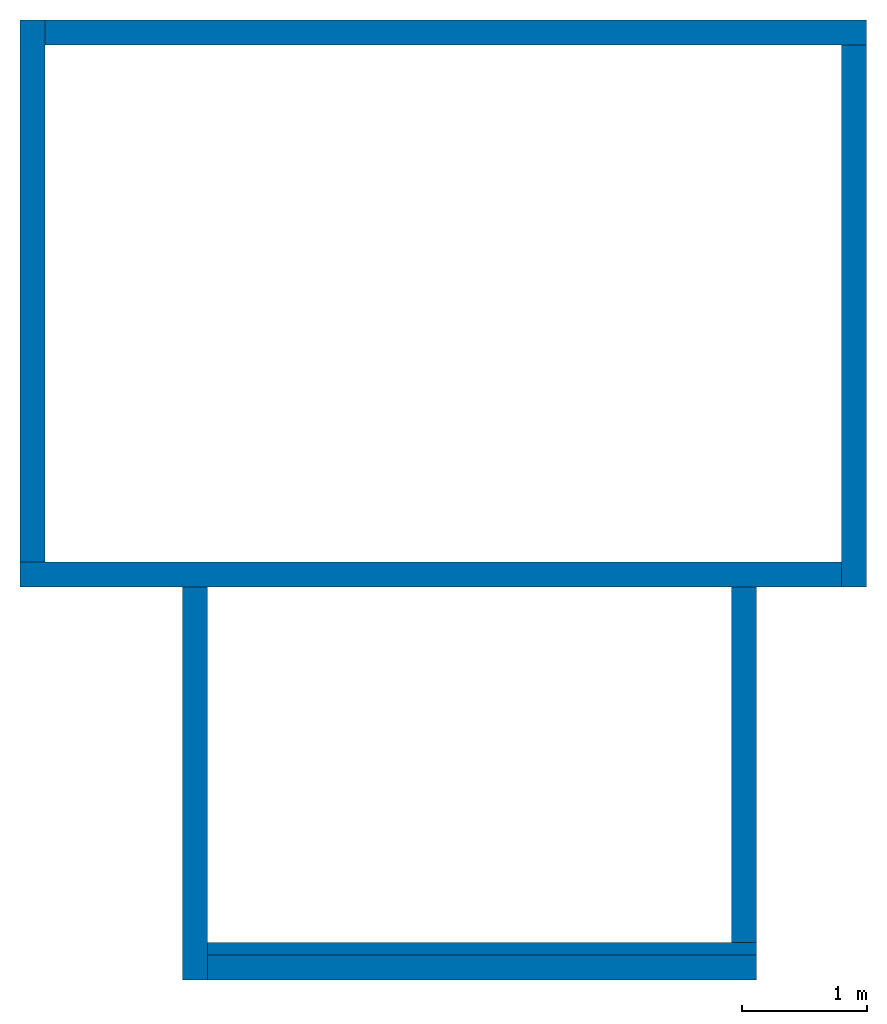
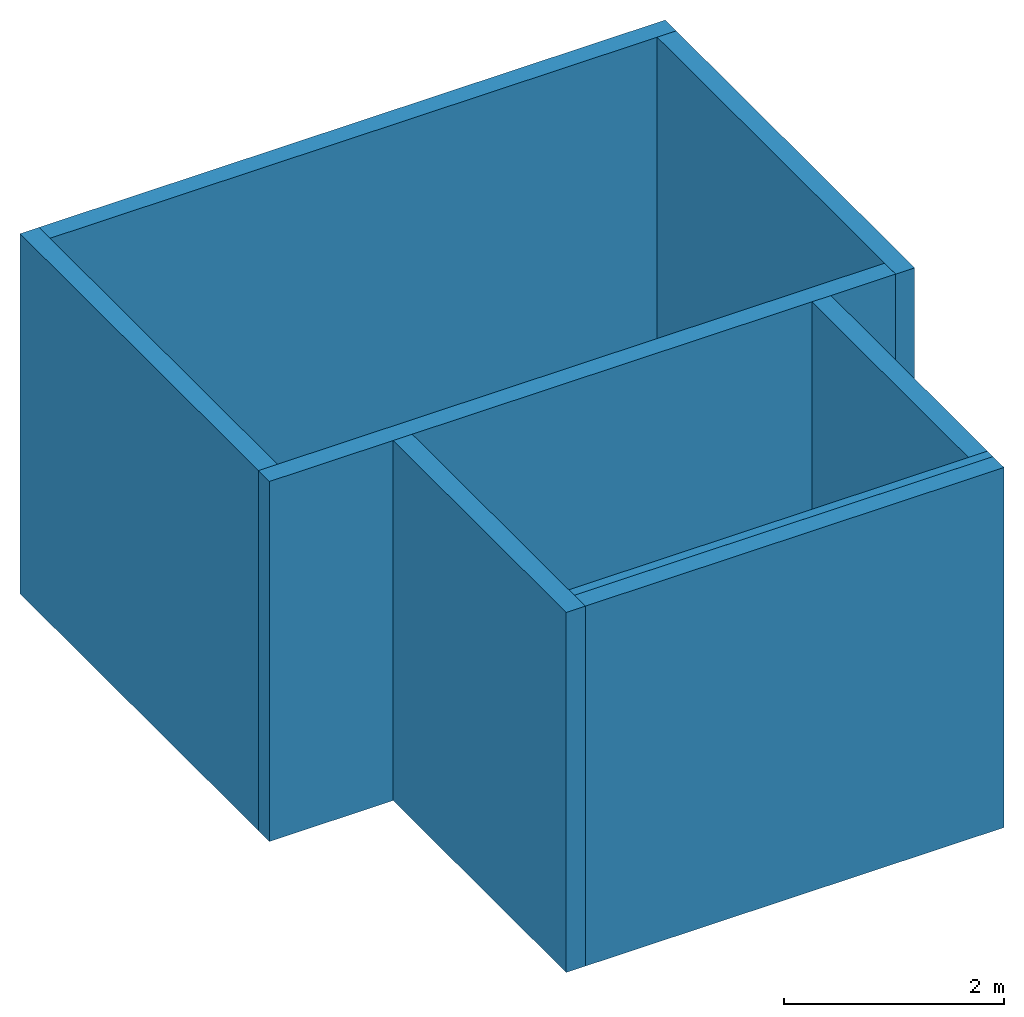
# One storey: 8 walls.
"""IFC2X3 building model written with IfcOpenShell, lengths in millimetres."""

from ifc_helpers import new_model, entity, si_unit, converted_unit, derived_unit, direction, frame, frame_2d, origin, origin_2d_with_axis, place, context, subcontext, project, spatial, rectangle, extrude, material, layer, layer_set, layer_usage, type_object, element, save


model = new_model("IFC2X3")

# Units and contexts
model_context = context("Model", 3, precision=0.01, world=origin(), true_north=direction((6.12303176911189e-17, 1.0)))
body_context = subcontext(model_context, "Body", "Model", "MODEL_VIEW")
ifc_project = project(units=[si_unit("LENGTHUNIT", "METRE", prefix="MILLI"), si_unit("AREAUNIT", "SQUARE_METRE"), si_unit("VOLUMEUNIT", "CUBIC_METRE"), converted_unit("PLANEANGLEUNIT", "DEGREE", entity("IfcRatioMeasure", 0.0174532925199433), si_unit("PLANEANGLEUNIT", "RADIAN"), dimensions=[0, 0, 0, 0, 0, 0, 0]), si_unit("MASSUNIT", "GRAM", prefix="KILO"), si_unit("TIMEUNIT", "SECOND"), si_unit("FREQUENCYUNIT", "HERTZ"), si_unit("THERMODYNAMICTEMPERATUREUNIT", "KELVIN"), derived_unit("THERMALTRANSMITTANCEUNIT", [(si_unit("MASSUNIT", "GRAM", prefix="KILO"), 1), (si_unit("THERMODYNAMICTEMPERATUREUNIT", "KELVIN"), -1), (si_unit("TIMEUNIT", "SECOND"), -3)]), derived_unit("VOLUMETRICFLOWRATEUNIT", [(si_unit("LENGTHUNIT", "METRE"), 3), (si_unit("TIMEUNIT", "SECOND"), -1)]), si_unit("ELECTRICCURRENTUNIT", "AMPERE"), si_unit("ELECTRICVOLTAGEUNIT", "VOLT"), si_unit("POWERUNIT", "WATT")], contexts=[model_context])

# Site, building, storey
site_placement = place(None, origin())
site = spatial("IfcSite", under=ifc_project, at=site_placement, Name="Default", CompositionType="ELEMENT")
building_placement = place(site_placement, origin())
building = spatial("IfcBuilding", under=site, at=building_placement, CompositionType="ELEMENT")
storey_placement = place(building_placement, origin())
storey = spatial("IfcBuildingStorey", under=building, at=storey_placement, Name="Level 1", CompositionType="ELEMENT", Elevation=0.0)

# Walls
ifc_material = material(Name="Default Wall")
ifc_layer = layer(ifc_material, 200.0)
ifc_layer_set = layer_set([ifc_layer], Name="Basic Wall:Wall 1")
ifc_layer_usage_1 = layer_usage(ifc_layer_set, "AXIS2", "NEGATIVE", 100.0)
wall_type = type_object("IfcWallType", Name="Basic Wall:Wall 1", PredefinedType="STANDARD", material=ifc_layer_set)
wall_1_placement = place(storey_placement, frame((693.124246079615, 559.408926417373, 0.0)))
element("IfcWallStandardCase", 1, at=wall_1_placement, inside=storey, type_object=wall_type, material=ifc_layer_usage_1, Name="Basic Wall:Wall 1:2277", ObjectType="Basic Wall:Wall 1:1492", context=body_context, shape_type="SweptSolid", body=[
    extrude(rectangle(XDim=6580.0, YDim=200.0, at=frame_2d((3290.0, 0.0), x_axis=(-1.0, 0.0))), origin(), (0.0, 0.0, 1.0), 4000.0),
])
ifc_layer_usage_2 = layer_usage(ifc_layer_set, "AXIS2", "NEGATIVE", 100.0)
wall_2_placement = place(storey_placement, frame((793.124246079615, 4999.40892641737, 0.0), z_axis=(0.0, 0.0, 1.0), x_axis=(0.0, -1.0, 0.0)))
element("IfcWallStandardCase", 2, at=wall_2_placement, inside=storey, type_object=wall_type, material=ifc_layer_usage_2, Name="Basic Wall:Wall 1:2278", ObjectType="Basic Wall:Wall 1:1492", context=body_context, shape_type="SweptSolid", body=[
    extrude(rectangle(XDim=4340.0, YDim=200.0, at=frame_2d((2170.0, 0.0), x_axis=(-1.0, 0.0))), origin(), (0.0, 0.0, 1.0), 4000.0),
])
ifc_layer_usage_3 = layer_usage(ifc_layer_set, "AXIS2", "NEGATIVE", 100.0)
wall_3_placement = place(storey_placement, frame((7473.12424607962, 4899.40892641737, 0.0), z_axis=(0.0, 0.0, 1.0), x_axis=(-1.0, 0.0, 0.0)))
element("IfcWallStandardCase", 3, at=wall_3_placement, inside=storey, type_object=wall_type, material=ifc_layer_usage_3, Name="Basic Wall:Wall 1:2279", ObjectType="Basic Wall:Wall 1:1492", context=body_context, shape_type="SweptSolid", body=[
    extrude(rectangle(XDim=6580.0, YDim=200.0, at=frame_2d((3290.0, 0.0), x_axis=(-1.0, 0.0))), origin(), (0.0, 0.0, 1.0), 4000.0),
])
ifc_layer_usage_4 = layer_usage(ifc_layer_set, "AXIS2", "NEGATIVE", 100.0)
wall_4_placement = place(storey_placement, frame((7373.12424607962, 459.408926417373, 0.0), z_axis=(0.0, 0.0, 1.0), x_axis=(0.0, 1.0, 0.0)))
element("IfcWallStandardCase", 4, at=wall_4_placement, inside=storey, type_object=wall_type, material=ifc_layer_usage_4, Name="Basic Wall:Wall 1:2280", ObjectType="Basic Wall:Wall 1:1492", context=body_context, shape_type="SweptSolid", body=[
    extrude(rectangle(XDim=4340.0, YDim=200.0, at=frame_2d((2170.0, 0.0), x_axis=(-1.0, 0.0))), origin(), (0.0, 0.0, 1.0), 4000.0),
])
ifc_layer_usage_5 = layer_usage(ifc_layer_set, "AXIS2", "NEGATIVE", 100.0)
wall_5_placement = place(storey_placement, frame((2093.12424607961, 459.408926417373, 0.0), z_axis=(0.0, 0.0, 1.0), x_axis=(0.0, -1.0, 0.0)))
element("IfcWallStandardCase", 5, at=wall_5_placement, inside=storey, type_object=wall_type, material=ifc_layer_usage_5, Name="Basic Wall:Wall 1:2354", ObjectType="Basic Wall:Wall 1:1492", context=body_context, shape_type="SweptSolid", body=[
    extrude(rectangle(XDim=3150.0, YDim=200.0, at=frame_2d((1575.0, 5.6843418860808e-14), x_axis=(-1.0, 0.0))), origin(), (0.0, 0.0, 1.0), 4000.0),
])
ifc_layer_usage_6 = layer_usage(ifc_layer_set, "AXIS2", "NEGATIVE", 100.0)
wall_6_placement = place(storey_placement, frame((6493.12424607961, -2390.59107358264, 0.0), z_axis=(0.0, 0.0, 1.0), x_axis=(0.0, 1.0, 0.0)))
element("IfcWallStandardCase", 6, at=wall_6_placement, inside=storey, type_object=wall_type, material=ifc_layer_usage_6, Name="Basic Wall:Wall 1:2422", ObjectType="Basic Wall:Wall 1:1492", context=body_context, shape_type="SweptSolid", body=[
    extrude(rectangle(XDim=2850.00000000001, YDim=200.0, at=frame_2d((1425.00000000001, -2.1316282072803e-13), x_axis=(-1.0, 0.0))), origin(), (0.0, 0.0, 1.0), 4000.0),
])
wall_7_placement = place(storey_placement, frame((2193.12424607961, -2490.59107358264, 0.0)))
element("IfcWall", 7, at=wall_7_placement, inside=storey, material=ifc_material, Name="Part:2932", context=body_context, shape_type="SweptSolid", body=[
    extrude(rectangle(XDim=4400.0, YDim=99.9999999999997, at=frame_2d((399.999999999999, 9.99999999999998), x_axis=(1.0, 0.0))), frame((2600.0, 60.0, 0.0), z_axis=(0.0, 0.0, 1.0), x_axis=(-1.0, 0.0, 0.0)), (0.0, 0.0, 1.0), 4000.0),
])
wall_8_placement = place(storey_placement, frame((2193.12424607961, -2690.59107358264, 0.0)))
element("IfcWall", 8, at=wall_8_placement, inside=storey, material=ifc_material, Name="Part:2933", context=body_context, shape_type="SweptSolid", body=[
    extrude(rectangle(XDim=200.000000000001, YDim=4400.0, at=origin_2d_with_axis()), frame((2200.0, 100.0, 0.0), z_axis=(0.0, 0.0, 1.0), x_axis=(0.0, 1.0, 0.0)), (0.0, 0.0, 1.0), 4000.0),
])

save(model, "model.ifc")
